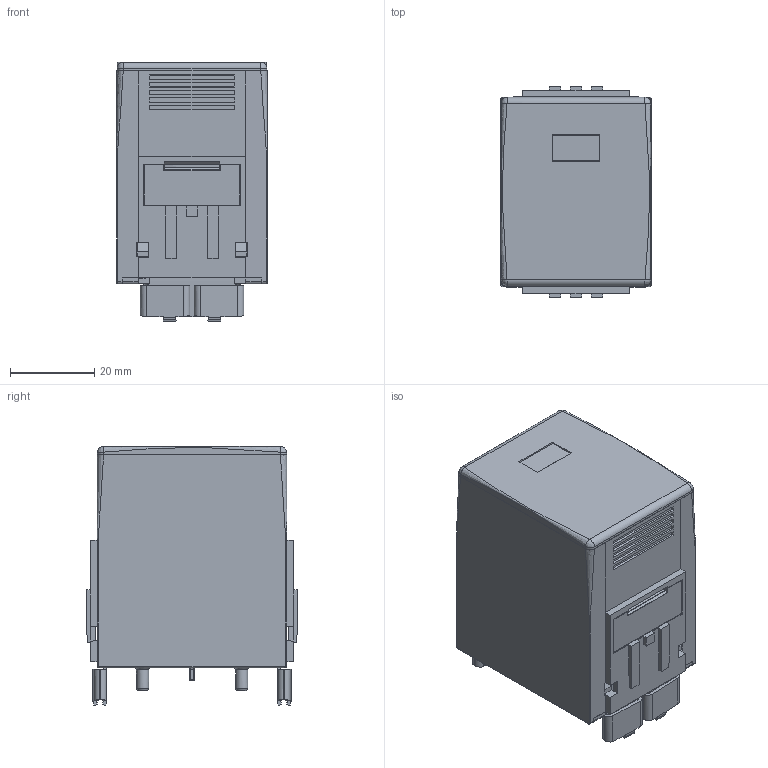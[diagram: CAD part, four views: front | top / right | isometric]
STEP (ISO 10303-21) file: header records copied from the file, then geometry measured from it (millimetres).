
FILE_DESCRIPTION( ( 'Unknown' ), '1' );
FILE_NAME( 'C:/Users/pdellaca/Desktop/7P00.stp', 'Unknown', ( 'Unknown' ), ( 'Unknown' ), 'PSStep 15.0.49', 'Unknown', ' ' );
FILE_SCHEMA( ( 'AUTOMOTIVE_DESIGN { 1 0 10303 214 1 1 1 1 }' ) );
Length unit declared in the file: millimetre
Products named in the file (8): top
Bounding box: 35.6 x 50 x 61.45 mm (x, y, z)
Surface area: 18061.2 mm2 (no closed solid volume)
Topology: 0 solids, 509 shells, 509 faces, 2779 edges, 2738 vertices
Faces by surface type: plane 311, cylinder 119, bspline 42, sphere 16, torus 8, extrusion 8, revolution 5
Entity records: 34811 total; most frequent: CARTESIAN_POINT 11368, DIRECTION 3565, ORIENTED_EDGE 2731, EDGE_CURVE 2731, VERTEX_POINT 2731, VECTOR 1924, LINE 1916, AXIS2_PLACEMENT_3D 818
